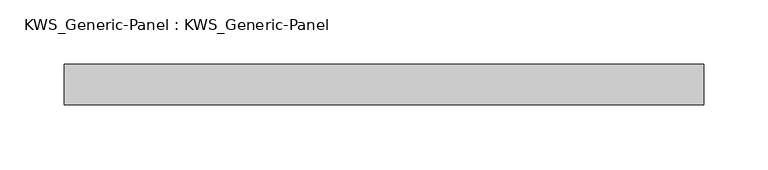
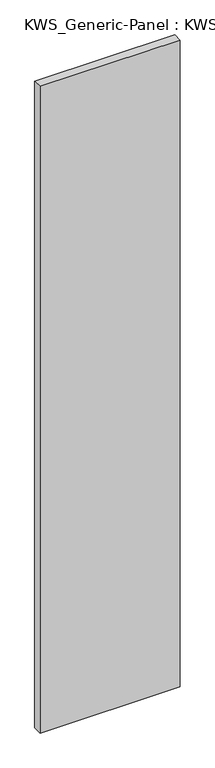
"""IFC4 building model written with IfcOpenShell, lengths in millimetres: plate geometry, KWS_Generic-Panel : KWS_Generic-Panel."""

from ifc_helpers import new_model, si_unit, frame, origin, place, context, project, spatial, polyline, outline, extrude, source, transform, mapped, element, save


def kws_generic_panel_kws_generic_panel_253ea42e(model_context):
    return source(origin(), model_context, "Body", "SweptSolid", [
        extrude(outline(polyline([(249.2374998, 0.0), (-249.2374998, 0.0), (-249.2374998, 31.75), (249.2374998, 31.75), (249.2374998, 0.0)])), frame((0.0, 0.0, 4.7625), z_axis=(0.0, 0.0, 1.0), x_axis=(1.0, 0.0, 0.0)), (0.0, 0.0, 1.0), 2428.875),
    ])


if __name__ == "__main__":
    model = new_model("IFC4")
    model_context = context("Model", 3, world=origin())
    ifc_project = project(units=[si_unit("LENGTHUNIT", "METRE", prefix="MILLI")], contexts=[model_context])
    site = spatial("IfcSite", under=ifc_project)
    building = spatial("IfcBuilding", under=site)
    placement = place(None, origin())
    kws_generic_panel_kws_generic_panel_shape = kws_generic_panel_kws_generic_panel_253ea42e(model_context)
    element("IfcPlate", 1, ObjectType="KWS_Generic-Panel : KWS_Generic-Panel", at=placement, inside=building, context=model_context, shape_type="MappedRepresentation", body=[
        mapped(kws_generic_panel_kws_generic_panel_shape, transform((0.0, 0.0, 0.0), x_axis=(1.0, 0.0, 0.0), y_axis=(0.0, 1.0, 0.0), z_axis=(0.0, 0.0, 1.0))),
    ])
    save(model, "model.ifc")
